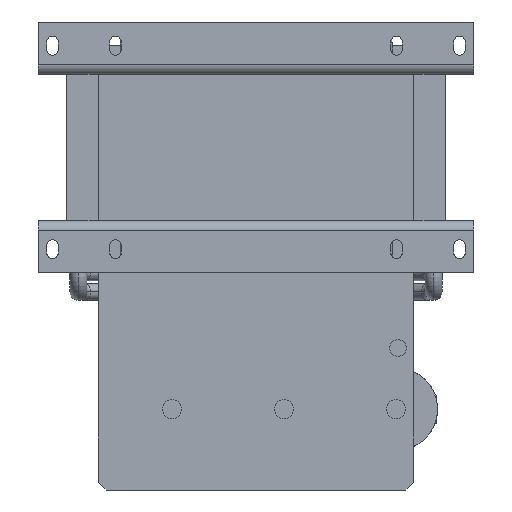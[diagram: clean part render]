
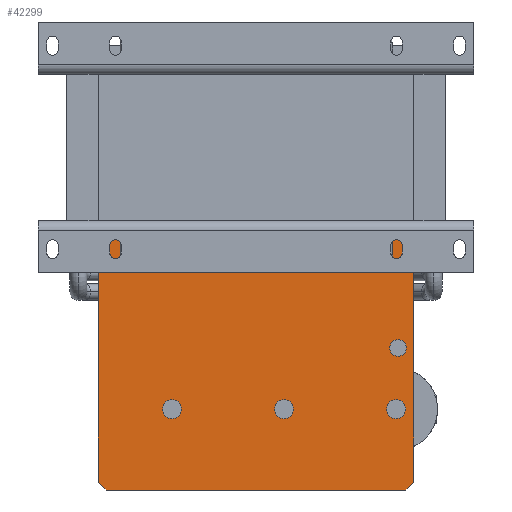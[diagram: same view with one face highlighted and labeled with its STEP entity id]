
A CAD part, front view. The second image highlights one B-rep face of the part: STEP entity #42299.
In plain terms, the highlighted planar face has unit normal (0, -1, 0).
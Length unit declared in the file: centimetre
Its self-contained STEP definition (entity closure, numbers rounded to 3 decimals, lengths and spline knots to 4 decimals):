
#239 = DIRECTION ( 'NONE',  ( 0., -1., 0. ) ) ;
#740 = DIRECTION ( 'NONE',  ( 0., 0., 1. ) ) ;
#743 = FACE_BOUND ( 'NONE', #17216, .T. ) ;
#934 = AXIS2_PLACEMENT_3D ( 'NONE', #13014, #29542, #42941 ) ;
#1367 = DIRECTION ( 'NONE',  ( 0.707, 0., 0.707 ) ) ;
#1492 = EDGE_CURVE ( 'NONE', #42610, #7420, #1835, .T. ) ;
#1730 = ORIENTED_EDGE ( 'NONE', *, *, #28384, .F. ) ;
#1835 = LINE ( 'NONE', #35636, #16438 ) ;
#3057 = CARTESIAN_POINT ( 'NONE',  ( 17.75, 7., -31.95 ) ) ;
#3559 = EDGE_LOOP ( 'NONE', ( #39369, #32427, #19177, #11144, #11518, #12256 ) ) ;
#4280 = CARTESIAN_POINT ( 'NONE',  ( 20., 7., -42.4 ) ) ;
#4386 = CARTESIAN_POINT ( 'NONE',  ( 18., 7., -25.4 ) ) ;
#4553 = CARTESIAN_POINT ( 'NONE',  ( 3.55, 7., -31.95 ) ) ;
#4990 = DIRECTION ( 'NONE',  ( 0., -1., 0. ) ) ;
#5109 = CIRCLE ( 'NONE', #934, 1.2 ) ;
#5434 = CARTESIAN_POINT ( 'NONE',  ( 3.55, 7., -33.15 ) ) ;
#5751 = AXIS2_PLACEMENT_3D ( 'NONE', #35887, #18722, #42025 ) ;
#5813 = CIRCLE ( 'NONE', #30343, 1.2 ) ;
#6178 = CARTESIAN_POINT ( 'NONE',  ( 18., 7., -26.45 ) ) ;
#6963 = EDGE_CURVE ( 'NONE', #16352, #43312, #39385, .T. ) ;
#7295 = FACE_BOUND ( 'NONE', #36571, .T. ) ;
#7420 = VERTEX_POINT ( 'NONE', #26570 ) ;
#7694 = VERTEX_POINT ( 'NONE', #13343 ) ;
#8614 = CIRCLE ( 'NONE', #13483, 1.05 ) ;
#9058 = DIRECTION ( 'NONE',  ( 0., -1., 0. ) ) ;
#9160 = CARTESIAN_POINT ( 'NONE',  ( -20., 7., -10.9 ) ) ;
#9462 = DIRECTION ( 'NONE',  ( 0., 0., -1. ) ) ;
#10062 = VECTOR ( 'NONE', #9462, 100. ) ;
#10179 = CARTESIAN_POINT ( 'NONE',  ( 20., 7., -10.9 ) ) ;
#10438 = DIRECTION ( 'NONE',  ( 0., 0., 1. ) ) ;
#11144 = ORIENTED_EDGE ( 'NONE', *, *, #1492, .T. ) ;
#11235 = ORIENTED_EDGE ( 'NONE', *, *, #35581, .F. ) ;
#11371 = DIRECTION ( 'NONE',  ( 0., 0., 1. ) ) ;
#11518 = ORIENTED_EDGE ( 'NONE', *, *, #17577, .F. ) ;
#11864 = DIRECTION ( 'NONE',  ( 0.707, 0., -0.707 ) ) ;
#12005 = CIRCLE ( 'NONE', #5751, 1.2 ) ;
#12147 = VECTOR ( 'NONE', #23585, 100. ) ;
#12256 = ORIENTED_EDGE ( 'NONE', *, *, #14087, .T. ) ;
#13014 = CARTESIAN_POINT ( 'NONE',  ( 17.75, 7., -33.15 ) ) ;
#13070 = AXIS2_PLACEMENT_3D ( 'NONE', #41490, #38417, #11371 ) ;
#13140 = LINE ( 'NONE', #39563, #10062 ) ;
#13147 = VERTEX_POINT ( 'NONE', #9160 ) ;
#13343 = CARTESIAN_POINT ( 'NONE',  ( -10.65, 7., -34.35 ) ) ;
#13483 = AXIS2_PLACEMENT_3D ( 'NONE', #25805, #39221, #35020 ) ;
#13849 = DIRECTION ( 'NONE',  ( 0., -1., 0. ) ) ;
#14087 = EDGE_CURVE ( 'NONE', #22492, #27821, #22189, .T. ) ;
#14503 = FACE_OUTER_BOUND ( 'NONE', #3559, .T. ) ;
#16352 = VERTEX_POINT ( 'NONE', #22346 ) ;
#16438 = VECTOR ( 'NONE', #11864, 100. ) ;
#17002 = CARTESIAN_POINT ( 'NONE',  ( 19., 7., -43.4 ) ) ;
#17069 = CIRCLE ( 'NONE', #25510, 1.05 ) ;
#17216 = EDGE_LOOP ( 'NONE', ( #32385, #1730 ) ) ;
#17240 = LINE ( 'NONE', #40337, #18033 ) ;
#17379 = DIRECTION ( 'NONE',  ( 0., 0., -1. ) ) ;
#17577 = EDGE_CURVE ( 'NONE', #22492, #7420, #24078, .T. ) ;
#17614 = AXIS2_PLACEMENT_3D ( 'NONE', #23760, #34106, #740 ) ;
#17634 = CARTESIAN_POINT ( 'NONE',  ( 18., 7., -24.35 ) ) ;
#18033 = VECTOR ( 'NONE', #10438, 100. ) ;
#18348 = DIRECTION ( 'NONE',  ( 0., 0., 1. ) ) ;
#18722 = DIRECTION ( 'NONE',  ( 0., -1., 0. ) ) ;
#19177 = ORIENTED_EDGE ( 'NONE', *, *, #31014, .T. ) ;
#19758 = ORIENTED_EDGE ( 'NONE', *, *, #35655, .F. ) ;
#21211 = CARTESIAN_POINT ( 'NONE',  ( 20., 7., -43.4 ) ) ;
#21413 = VERTEX_POINT ( 'NONE', #17634 ) ;
#21671 = VECTOR ( 'NONE', #34618, 100. ) ;
#22189 = LINE ( 'NONE', #25260, #22992 ) ;
#22346 = CARTESIAN_POINT ( 'NONE',  ( 3.55, 7., -34.35 ) ) ;
#22492 = VERTEX_POINT ( 'NONE', #17002 ) ;
#22992 = VECTOR ( 'NONE', #1367, 100. ) ;
#23585 = DIRECTION ( 'NONE',  ( -1., 0., 0. ) ) ;
#23760 = CARTESIAN_POINT ( 'NONE',  ( -10.65, 7., -33.15 ) ) ;
#24078 = LINE ( 'NONE', #21211, #21671 ) ;
#24873 = CARTESIAN_POINT ( 'NONE',  ( 20., 7., -10.9 ) ) ;
#24961 = EDGE_CURVE ( 'NONE', #27821, #36787, #17240, .T. ) ;
#25163 = EDGE_LOOP ( 'NONE', ( #19758, #28986 ) ) ;
#25167 = ORIENTED_EDGE ( 'NONE', *, *, #6963, .F. ) ;
#25260 = CARTESIAN_POINT ( 'NONE',  ( 19., 7., -43.4 ) ) ;
#25348 = CIRCLE ( 'NONE', #17614, 1.2 ) ;
#25510 = AXIS2_PLACEMENT_3D ( 'NONE', #4386, #239, #34041 ) ;
#25805 = CARTESIAN_POINT ( 'NONE',  ( 18., 7., -25.4 ) ) ;
#25983 = EDGE_CURVE ( 'NONE', #38546, #31365, #26425, .T. ) ;
#26169 = CARTESIAN_POINT ( 'NONE',  ( 17.75, 7., -34.35 ) ) ;
#26425 = CIRCLE ( 'NONE', #13070, 1.2 ) ;
#26570 = CARTESIAN_POINT ( 'NONE',  ( -19., 7., -43.4 ) ) ;
#26860 = ORIENTED_EDGE ( 'NONE', *, *, #31037, .F. ) ;
#27291 = FACE_BOUND ( 'NONE', #25163, .T. ) ;
#27821 = VERTEX_POINT ( 'NONE', #4280 ) ;
#27951 = ORIENTED_EDGE ( 'NONE', *, *, #29244, .F. ) ;
#27952 = PLANE ( 'NONE',  #42169 ) ;
#28384 = EDGE_CURVE ( 'NONE', #7694, #37606, #25348, .T. ) ;
#28388 = CARTESIAN_POINT ( 'NONE',  ( -20., 7., -42.4 ) ) ;
#28882 = VERTEX_POINT ( 'NONE', #6178 ) ;
#28986 = ORIENTED_EDGE ( 'NONE', *, *, #25983, .F. ) ;
#29244 = EDGE_CURVE ( 'NONE', #43312, #16352, #5813, .T. ) ;
#29542 = DIRECTION ( 'NONE',  ( 0., -1., 0. ) ) ;
#30343 = AXIS2_PLACEMENT_3D ( 'NONE', #5434, #4990, #18348 ) ;
#31014 = EDGE_CURVE ( 'NONE', #13147, #42610, #13140, .T. ) ;
#31037 = EDGE_CURVE ( 'NONE', #28882, #21413, #17069, .T. ) ;
#31365 = VERTEX_POINT ( 'NONE', #3057 ) ;
#31442 = FACE_BOUND ( 'NONE', #38507, .T. ) ;
#32385 = ORIENTED_EDGE ( 'NONE', *, *, #33892, .F. ) ;
#32427 = ORIENTED_EDGE ( 'NONE', *, *, #40645, .T. ) ;
#32558 = DIRECTION ( 'NONE',  ( 0., 0., 1. ) ) ;
#33892 = EDGE_CURVE ( 'NONE', #37606, #7694, #12005, .T. ) ;
#34041 = DIRECTION ( 'NONE',  ( 0., 0., -1. ) ) ;
#34106 = DIRECTION ( 'NONE',  ( 0., -1., 0. ) ) ;
#34618 = DIRECTION ( 'NONE',  ( -1., 0., 0. ) ) ;
#35020 = DIRECTION ( 'NONE',  ( 0., 0., -1. ) ) ;
#35581 = EDGE_CURVE ( 'NONE', #21413, #28882, #8614, .T. ) ;
#35636 = CARTESIAN_POINT ( 'NONE',  ( -20., 7., -42.4 ) ) ;
#35655 = EDGE_CURVE ( 'NONE', #31365, #38546, #5109, .T. ) ;
#35887 = CARTESIAN_POINT ( 'NONE',  ( -10.65, 7., -33.15 ) ) ;
#36571 = EDGE_LOOP ( 'NONE', ( #27951, #25167 ) ) ;
#36787 = VERTEX_POINT ( 'NONE', #24873 ) ;
#37549 = CARTESIAN_POINT ( 'NONE',  ( -10.65, 7., -31.95 ) ) ;
#37606 = VERTEX_POINT ( 'NONE', #37549 ) ;
#38417 = DIRECTION ( 'NONE',  ( 0., -1., 0. ) ) ;
#38507 = EDGE_LOOP ( 'NONE', ( #26860, #11235 ) ) ;
#38546 = VERTEX_POINT ( 'NONE', #26169 ) ;
#39221 = DIRECTION ( 'NONE',  ( 0., -1., 0. ) ) ;
#39369 = ORIENTED_EDGE ( 'NONE', *, *, #24961, .T. ) ;
#39385 = CIRCLE ( 'NONE', #40089, 1.2 ) ;
#39563 = CARTESIAN_POINT ( 'NONE',  ( -20., 7., -42.4 ) ) ;
#40024 = CARTESIAN_POINT ( 'NONE',  ( 3.55, 7., -33.15 ) ) ;
#40089 = AXIS2_PLACEMENT_3D ( 'NONE', #40024, #9058, #32558 ) ;
#40337 = CARTESIAN_POINT ( 'NONE',  ( 20., 7., -42.4 ) ) ;
#40508 = LINE ( 'NONE', #10179, #12147 ) ;
#40645 = EDGE_CURVE ( 'NONE', #36787, #13147, #40508, .T. ) ;
#40693 = CARTESIAN_POINT ( 'NONE',  ( 0., 7., 0. ) ) ;
#41490 = CARTESIAN_POINT ( 'NONE',  ( 17.75, 7., -33.15 ) ) ;
#42025 = DIRECTION ( 'NONE',  ( 0., 0., 1. ) ) ;
#42169 = AXIS2_PLACEMENT_3D ( 'NONE', #40693, #13849, #17379 ) ;
#42299 = ADVANCED_FACE ( 'NONE', ( #31442, #7295, #14503, #743, #27291 ), #27952, .T. ) ;
#42610 = VERTEX_POINT ( 'NONE', #28388 ) ;
#42941 = DIRECTION ( 'NONE',  ( 0., 0., 1. ) ) ;
#43312 = VERTEX_POINT ( 'NONE', #4553 ) ;
